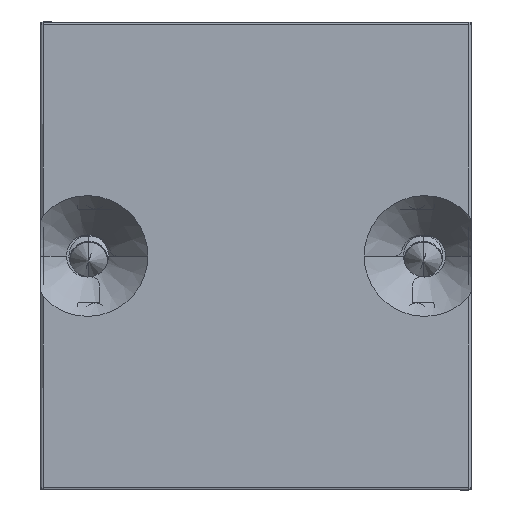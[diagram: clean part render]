
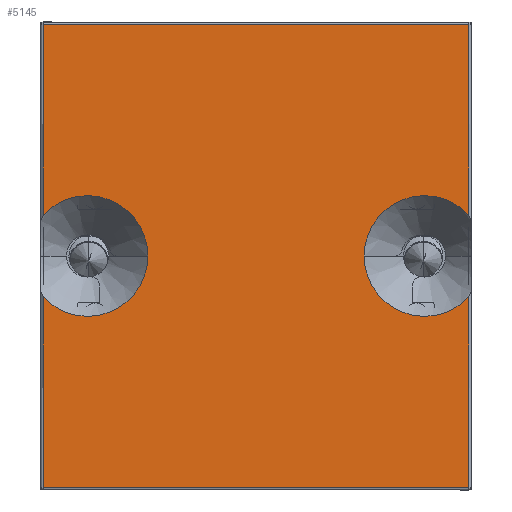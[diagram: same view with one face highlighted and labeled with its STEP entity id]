
A CAD part, front view. The second image highlights one B-rep face of the part: STEP entity #5145.
In plain terms, the highlighted planar face has unit normal (0, -1, 0).
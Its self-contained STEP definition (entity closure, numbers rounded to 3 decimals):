
#223 = FACE_OUTER_BOUND ( 'NONE', #3595, .T. ) ;
#224 = CIRCLE ( 'NONE', #7495, 2.578 ) ;
#225 = CARTESIAN_POINT ( 'NONE',  ( -96.1, -122.106, 399.6 ) ) ;
#350 = PLANE ( 'NONE',  #2288 ) ;
#487 = ORIENTED_EDGE ( 'NONE', *, *, #9657, .T. ) ;
#591 = AXIS2_PLACEMENT_3D ( 'NONE', #7551, #4507, #11542 ) ;
#1122 = AXIS2_PLACEMENT_3D ( 'NONE', #225, #6988, #2055 ) ;
#1401 = LINE ( 'NONE', #5276, #11263 ) ;
#1537 = VERTEX_POINT ( 'NONE', #2294 ) ;
#1679 = VECTOR ( 'NONE', #4261, 1000. ) ;
#1793 = EDGE_CURVE ( 'NONE', #6648, #6222, #6236, .T. ) ;
#1812 = DIRECTION ( 'NONE',  ( 0., 0., 1. ) ) ;
#2055 = DIRECTION ( 'NONE',  ( -1., 0., 0. ) ) ;
#2288 = AXIS2_PLACEMENT_3D ( 'NONE', #11744, #2752, #6469 ) ;
#2294 = CARTESIAN_POINT ( 'NONE',  ( -107.921, -122.106, 399.6 ) ) ;
#2302 = DIRECTION ( 'NONE',  ( 0., 1., 0. ) ) ;
#2366 = CARTESIAN_POINT ( 'NONE',  ( -110.5, -122.106, 399.6 ) ) ;
#2537 = VECTOR ( 'NONE', #7082, 1000. ) ;
#2677 = CIRCLE ( 'NONE', #591, 2.578 ) ;
#2752 = DIRECTION ( 'NONE',  ( 0., 1., 0. ) ) ;
#2794 = CIRCLE ( 'NONE', #1122, 2.578 ) ;
#2796 = DIRECTION ( 'NONE',  ( 0., 0., 1. ) ) ;
#2801 = VERTEX_POINT ( 'NONE', #12627 ) ;
#2957 = EDGE_CURVE ( 'NONE', #8324, #1537, #9077, .T. ) ;
#3204 = CARTESIAN_POINT ( 'NONE',  ( -112.4, -122.106, 401.343 ) ) ;
#3313 = DIRECTION ( 'NONE',  ( 1., 0., 0. ) ) ;
#3458 = EDGE_CURVE ( 'NONE', #5167, #10060, #11919, .T. ) ;
#3595 = EDGE_LOOP ( 'NONE', ( #487, #4022, #5446, #8836, #7254, #10592, #9749, #6436, #12326, #7016 ) ) ;
#4022 = ORIENTED_EDGE ( 'NONE', *, *, #3458, .T. ) ;
#4025 = VECTOR ( 'NONE', #3313, 1000. ) ;
#4261 = DIRECTION ( 'NONE',  ( 0., 0., -1. ) ) ;
#4507 = DIRECTION ( 'NONE',  ( 0., 1., 0. ) ) ;
#4794 = VERTEX_POINT ( 'NONE', #7065 ) ;
#4929 = AXIS2_PLACEMENT_3D ( 'NONE', #2366, #2302, #12361 ) ;
#4994 = CARTESIAN_POINT ( 'NONE',  ( -94.2, -122.106, 399.6 ) ) ;
#5145 = ADVANCED_FACE ( 'NONE', ( #223 ), #350, .F. ) ;
#5167 = VERTEX_POINT ( 'NONE', #7803 ) ;
#5276 = CARTESIAN_POINT ( 'NONE',  ( -112.4, -122.106, 399.6 ) ) ;
#5446 = ORIENTED_EDGE ( 'NONE', *, *, #11096, .T. ) ;
#5826 = VECTOR ( 'NONE', #1812, 1000. ) ;
#6017 = CARTESIAN_POINT ( 'NONE',  ( -112.4, -122.106, 409.5 ) ) ;
#6172 = EDGE_CURVE ( 'NONE', #12905, #6648, #6643, .T. ) ;
#6222 = VERTEX_POINT ( 'NONE', #6017 ) ;
#6236 = LINE ( 'NONE', #6949, #2537 ) ;
#6363 = DIRECTION ( 'NONE',  ( 0., 1., 0. ) ) ;
#6436 = ORIENTED_EDGE ( 'NONE', *, *, #2957, .T. ) ;
#6469 = DIRECTION ( 'NONE',  ( -1., 0., 0. ) ) ;
#6555 = CARTESIAN_POINT ( 'NONE',  ( -110.5, -122.106, 399.6 ) ) ;
#6561 = EDGE_CURVE ( 'NONE', #8581, #4794, #10256, .T. ) ;
#6596 = CARTESIAN_POINT ( 'NONE',  ( -112.4, -122.106, 397.857 ) ) ;
#6643 = LINE ( 'NONE', #10635, #5826 ) ;
#6648 = VERTEX_POINT ( 'NONE', #10901 ) ;
#6729 = EDGE_CURVE ( 'NONE', #6222, #8324, #1401, .T. ) ;
#6949 = CARTESIAN_POINT ( 'NONE',  ( -103.3, -122.106, 409.5 ) ) ;
#6988 = DIRECTION ( 'NONE',  ( 0., 1., 0. ) ) ;
#7016 = ORIENTED_EDGE ( 'NONE', *, *, #6561, .T. ) ;
#7022 = EDGE_CURVE ( 'NONE', #1537, #8581, #224, .T. ) ;
#7065 = CARTESIAN_POINT ( 'NONE',  ( -112.4, -122.106, 389.7 ) ) ;
#7082 = DIRECTION ( 'NONE',  ( -1., 0., 0. ) ) ;
#7254 = ORIENTED_EDGE ( 'NONE', *, *, #6172, .T. ) ;
#7259 = CARTESIAN_POINT ( 'NONE',  ( -112.4, -122.106, 399.6 ) ) ;
#7495 = AXIS2_PLACEMENT_3D ( 'NONE', #6555, #6363, #12519 ) ;
#7551 = CARTESIAN_POINT ( 'NONE',  ( -96.1, -122.106, 399.6 ) ) ;
#7711 = CARTESIAN_POINT ( 'NONE',  ( -94.2, -122.106, 397.857 ) ) ;
#7803 = CARTESIAN_POINT ( 'NONE',  ( -94.2, -122.106, 389.7 ) ) ;
#7991 = EDGE_CURVE ( 'NONE', #2801, #12905, #2677, .T. ) ;
#8252 = LINE ( 'NONE', #12271, #4025 ) ;
#8324 = VERTEX_POINT ( 'NONE', #3204 ) ;
#8581 = VERTEX_POINT ( 'NONE', #6596 ) ;
#8836 = ORIENTED_EDGE ( 'NONE', *, *, #7991, .T. ) ;
#9077 = CIRCLE ( 'NONE', #4929, 2.578 ) ;
#9657 = EDGE_CURVE ( 'NONE', #4794, #5167, #8252, .T. ) ;
#9749 = ORIENTED_EDGE ( 'NONE', *, *, #6729, .T. ) ;
#10060 = VERTEX_POINT ( 'NONE', #7711 ) ;
#10256 = LINE ( 'NONE', #7259, #1679 ) ;
#10332 = VECTOR ( 'NONE', #2796, 1000. ) ;
#10592 = ORIENTED_EDGE ( 'NONE', *, *, #1793, .T. ) ;
#10635 = CARTESIAN_POINT ( 'NONE',  ( -94.2, -122.106, 399.6 ) ) ;
#10901 = CARTESIAN_POINT ( 'NONE',  ( -94.2, -122.106, 409.5 ) ) ;
#11096 = EDGE_CURVE ( 'NONE', #10060, #2801, #2794, .T. ) ;
#11246 = DIRECTION ( 'NONE',  ( 0., 0., -1. ) ) ;
#11263 = VECTOR ( 'NONE', #11246, 1000. ) ;
#11542 = DIRECTION ( 'NONE',  ( -1., 0., 0. ) ) ;
#11744 = CARTESIAN_POINT ( 'NONE',  ( -103.3, -122.106, 399.6 ) ) ;
#11919 = LINE ( 'NONE', #4994, #10332 ) ;
#12080 = CARTESIAN_POINT ( 'NONE',  ( -94.2, -122.106, 401.343 ) ) ;
#12271 = CARTESIAN_POINT ( 'NONE',  ( -103.3, -122.106, 389.7 ) ) ;
#12326 = ORIENTED_EDGE ( 'NONE', *, *, #7022, .T. ) ;
#12361 = DIRECTION ( 'NONE',  ( -1., 0., 0. ) ) ;
#12519 = DIRECTION ( 'NONE',  ( -1., 0., 0. ) ) ;
#12627 = CARTESIAN_POINT ( 'NONE',  ( -98.678, -122.106, 399.6 ) ) ;
#12905 = VERTEX_POINT ( 'NONE', #12080 ) ;
